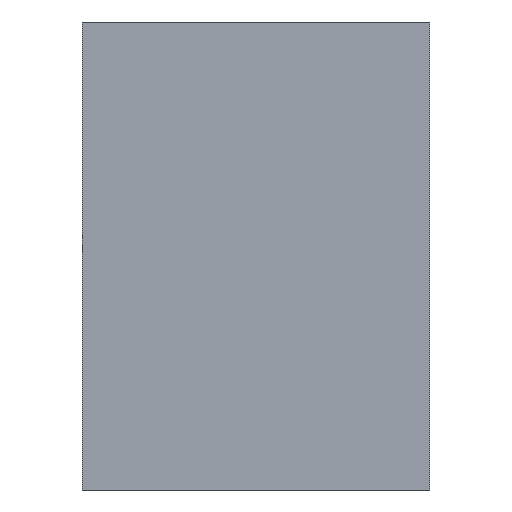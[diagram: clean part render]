
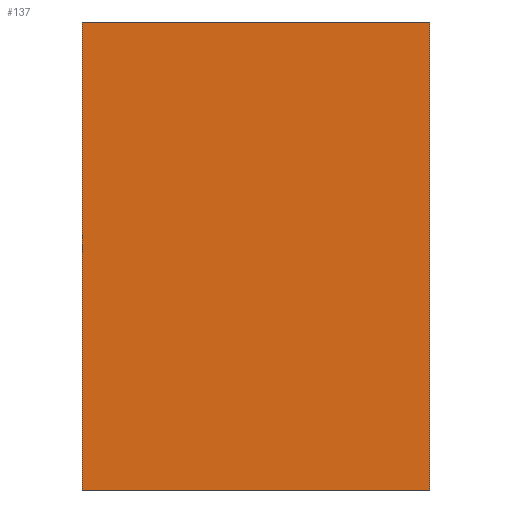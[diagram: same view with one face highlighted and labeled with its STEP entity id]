
A CAD part, front view. The second image highlights one B-rep face of the part: STEP entity #137.
In plain terms, the highlighted planar face has unit normal (0, -1, 0).
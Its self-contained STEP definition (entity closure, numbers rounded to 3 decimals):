
#21 = EDGE_CURVE('',#22,#24,#26,.T.);
#22 = VERTEX_POINT('',#23);
#23 = CARTESIAN_POINT('',(-10.,-6.8,-13.45));
#24 = VERTEX_POINT('',#25);
#25 = CARTESIAN_POINT('',(-10.,-6.8,13.45));
#26 = SURFACE_CURVE('',#27,(#31,#43),.PCURVE_S1.);
#27 = LINE('',#28,#29);
#28 = CARTESIAN_POINT('',(-10.,-6.8,-13.45));
#29 = VECTOR('',#30,1.);
#30 = DIRECTION('',(0.,0.,1.));
#31 = PCURVE('',#32,#37);
#32 = PLANE('',#33);
#33 = AXIS2_PLACEMENT_3D('',#34,#35,#36);
#34 = CARTESIAN_POINT('',(-10.,-6.8,-13.45));
#35 = DIRECTION('',(1.,0.,0.));
#36 = DIRECTION('',(0.,0.,1.));
#37 = DEFINITIONAL_REPRESENTATION('',(#38),#42);
#38 = LINE('',#39,#40);
#39 = CARTESIAN_POINT('',(0.,0.));
#40 = VECTOR('',#41,1.);
#41 = DIRECTION('',(1.,0.));
#42 = ( GEOMETRIC_REPRESENTATION_CONTEXT(2) 
PARAMETRIC_REPRESENTATION_CONTEXT() REPRESENTATION_CONTEXT('2D SPACE',''
  ) );
#43 = PCURVE('',#44,#49);
#44 = PLANE('',#45);
#45 = AXIS2_PLACEMENT_3D('',#46,#47,#48);
#46 = CARTESIAN_POINT('',(-10.,-6.8,-13.45));
#47 = DIRECTION('',(0.,1.,0.));
#48 = DIRECTION('',(0.,0.,1.));
#49 = DEFINITIONAL_REPRESENTATION('',(#50),#54);
#50 = LINE('',#51,#52);
#51 = CARTESIAN_POINT('',(0.,0.));
#52 = VECTOR('',#53,1.);
#53 = DIRECTION('',(1.,0.));
#54 = ( GEOMETRIC_REPRESENTATION_CONTEXT(2) 
PARAMETRIC_REPRESENTATION_CONTEXT() REPRESENTATION_CONTEXT('2D SPACE',''
  ) );
#72 = PLANE('',#73);
#73 = AXIS2_PLACEMENT_3D('',#74,#75,#76);
#74 = CARTESIAN_POINT('',(-10.,-6.8,-13.45));
#75 = DIRECTION('',(0.,0.,1.));
#76 = DIRECTION('',(1.,0.,0.));
#126 = PLANE('',#127);
#127 = AXIS2_PLACEMENT_3D('',#128,#129,#130);
#128 = CARTESIAN_POINT('',(-10.,-6.8,13.45));
#129 = DIRECTION('',(0.,0.,1.));
#130 = DIRECTION('',(1.,0.,0.));
#137 = ADVANCED_FACE('',(#138),#44,.F.);
#138 = FACE_BOUND('',#139,.F.);
#139 = EDGE_LOOP('',(#140,#163,#164,#187));
#140 = ORIENTED_EDGE('',*,*,#141,.F.);
#141 = EDGE_CURVE('',#22,#142,#144,.T.);
#142 = VERTEX_POINT('',#143);
#143 = CARTESIAN_POINT('',(10.,-6.8,-13.45));
#144 = SURFACE_CURVE('',#145,(#149,#156),.PCURVE_S1.);
#145 = LINE('',#146,#147);
#146 = CARTESIAN_POINT('',(-10.,-6.8,-13.45));
#147 = VECTOR('',#148,1.);
#148 = DIRECTION('',(1.,0.,0.));
#149 = PCURVE('',#44,#150);
#150 = DEFINITIONAL_REPRESENTATION('',(#151),#155);
#151 = LINE('',#152,#153);
#152 = CARTESIAN_POINT('',(0.,0.));
#153 = VECTOR('',#154,1.);
#154 = DIRECTION('',(0.,1.));
#155 = ( GEOMETRIC_REPRESENTATION_CONTEXT(2) 
PARAMETRIC_REPRESENTATION_CONTEXT() REPRESENTATION_CONTEXT('2D SPACE',''
  ) );
#156 = PCURVE('',#72,#157);
#157 = DEFINITIONAL_REPRESENTATION('',(#158),#162);
#158 = LINE('',#159,#160);
#159 = CARTESIAN_POINT('',(0.,0.));
#160 = VECTOR('',#161,1.);
#161 = DIRECTION('',(1.,0.));
#162 = ( GEOMETRIC_REPRESENTATION_CONTEXT(2) 
PARAMETRIC_REPRESENTATION_CONTEXT() REPRESENTATION_CONTEXT('2D SPACE',''
  ) );
#163 = ORIENTED_EDGE('',*,*,#21,.T.);
#164 = ORIENTED_EDGE('',*,*,#165,.T.);
#165 = EDGE_CURVE('',#24,#166,#168,.T.);
#166 = VERTEX_POINT('',#167);
#167 = CARTESIAN_POINT('',(10.,-6.8,13.45));
#168 = SURFACE_CURVE('',#169,(#173,#180),.PCURVE_S1.);
#169 = LINE('',#170,#171);
#170 = CARTESIAN_POINT('',(-10.,-6.8,13.45));
#171 = VECTOR('',#172,1.);
#172 = DIRECTION('',(1.,0.,0.));
#173 = PCURVE('',#44,#174);
#174 = DEFINITIONAL_REPRESENTATION('',(#175),#179);
#175 = LINE('',#176,#177);
#176 = CARTESIAN_POINT('',(26.9,0.));
#177 = VECTOR('',#178,1.);
#178 = DIRECTION('',(0.,1.));
#179 = ( GEOMETRIC_REPRESENTATION_CONTEXT(2) 
PARAMETRIC_REPRESENTATION_CONTEXT() REPRESENTATION_CONTEXT('2D SPACE',''
  ) );
#180 = PCURVE('',#126,#181);
#181 = DEFINITIONAL_REPRESENTATION('',(#182),#186);
#182 = LINE('',#183,#184);
#183 = CARTESIAN_POINT('',(0.,0.));
#184 = VECTOR('',#185,1.);
#185 = DIRECTION('',(1.,0.));
#186 = ( GEOMETRIC_REPRESENTATION_CONTEXT(2) 
PARAMETRIC_REPRESENTATION_CONTEXT() REPRESENTATION_CONTEXT('2D SPACE',''
  ) );
#187 = ORIENTED_EDGE('',*,*,#188,.F.);
#188 = EDGE_CURVE('',#142,#166,#189,.T.);
#189 = SURFACE_CURVE('',#190,(#194,#201),.PCURVE_S1.);
#190 = LINE('',#191,#192);
#191 = CARTESIAN_POINT('',(10.,-6.8,-13.45));
#192 = VECTOR('',#193,1.);
#193 = DIRECTION('',(0.,0.,1.));
#194 = PCURVE('',#44,#195);
#195 = DEFINITIONAL_REPRESENTATION('',(#196),#200);
#196 = LINE('',#197,#198);
#197 = CARTESIAN_POINT('',(0.,20.));
#198 = VECTOR('',#199,1.);
#199 = DIRECTION('',(1.,0.));
#200 = ( GEOMETRIC_REPRESENTATION_CONTEXT(2) 
PARAMETRIC_REPRESENTATION_CONTEXT() REPRESENTATION_CONTEXT('2D SPACE',''
  ) );
#201 = PCURVE('',#202,#207);
#202 = PLANE('',#203);
#203 = AXIS2_PLACEMENT_3D('',#204,#205,#206);
#204 = CARTESIAN_POINT('',(10.,-6.8,-13.45));
#205 = DIRECTION('',(1.,0.,0.));
#206 = DIRECTION('',(0.,0.,1.));
#207 = DEFINITIONAL_REPRESENTATION('',(#208),#212);
#208 = LINE('',#209,#210);
#209 = CARTESIAN_POINT('',(0.,0.));
#210 = VECTOR('',#211,1.);
#211 = DIRECTION('',(1.,0.));
#212 = ( GEOMETRIC_REPRESENTATION_CONTEXT(2) 
PARAMETRIC_REPRESENTATION_CONTEXT() REPRESENTATION_CONTEXT('2D SPACE',''
  ) );
